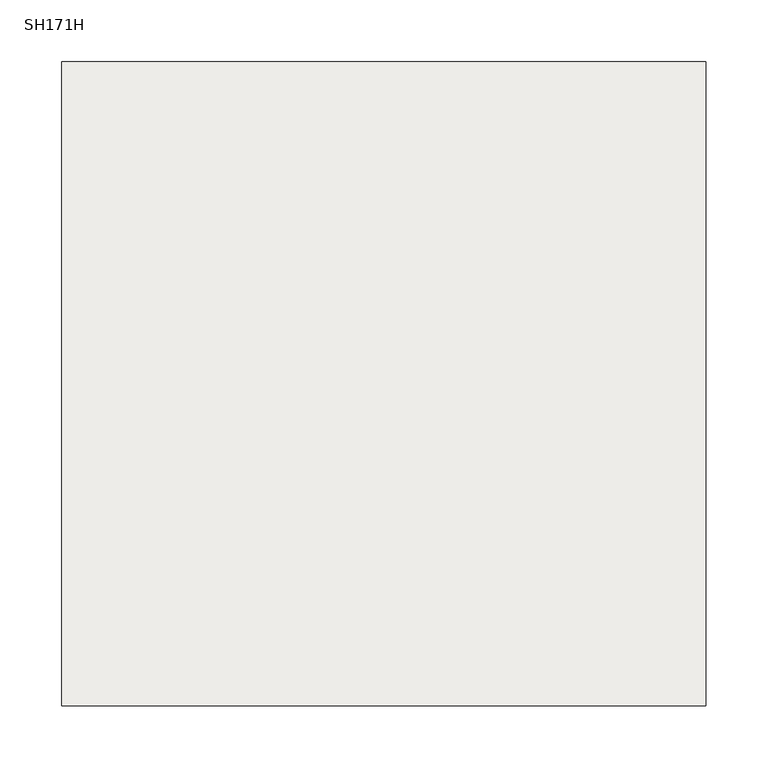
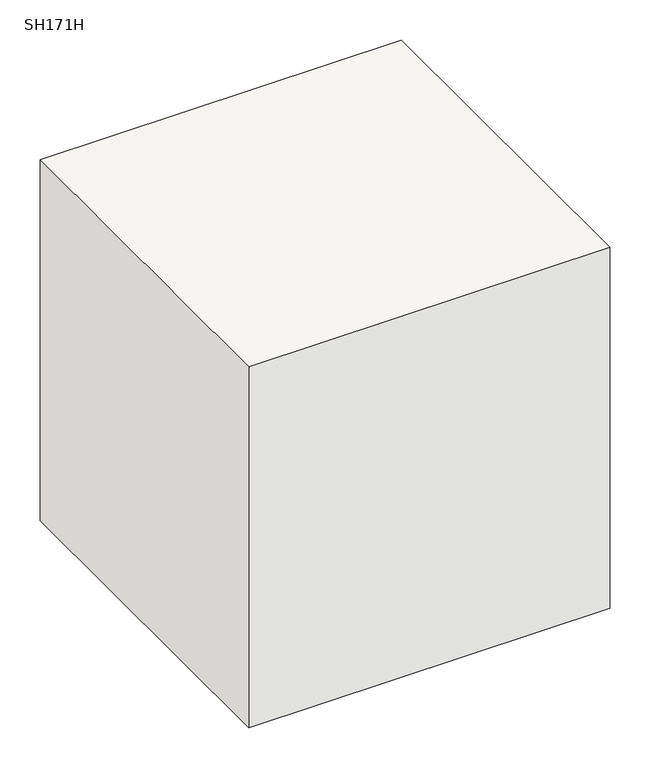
"""IFC4 building model written with IfcOpenShell, lengths in millimetres: slab geometry, 柱形_SH : SH171H."""

from ifc_helpers import new_model, si_unit, frame, origin, place, context, project, spatial, polyline, outline, extrude, source, transform, mapped, element, save


def sh171h_3b6ec63e(model_context):
    return source(origin(), model_context, "Body", "SweptSolid", [
        extrude(outline(polyline([(260.0, 260.0), (260.0, -260.0), (-260.0, -260.0), (-260.0, 260.0), (260.0, 260.0)])), frame((0.0, 0.0, -550.0), z_axis=(0.0, 0.0, 1.0), x_axis=(1.0, 0.0, 0.0)), (0.0, 0.0, 1.0), 550.0),
    ])


if __name__ == "__main__":
    model = new_model("IFC4")
    model_context = context("Model", 3, world=origin())
    ifc_project = project(units=[si_unit("LENGTHUNIT", "METRE", prefix="MILLI")], contexts=[model_context])
    site = spatial("IfcSite", under=ifc_project)
    building = spatial("IfcBuilding", under=site)
    placement = place(None, origin())
    sh171h_shape = sh171h_3b6ec63e(model_context)
    element("IfcSlab", 1, ObjectType="柱形_SH : SH171H", at=placement, inside=building, context=model_context, shape_type="MappedRepresentation", body=[
        mapped(sh171h_shape, transform((0.0, 0.0, 0.0), x_axis=(1.0, 0.0, 0.0), y_axis=(0.0, 1.0, 0.0), z_axis=(0.0, 0.0, 1.0))),
    ])
    save(model, "model.ifc")
